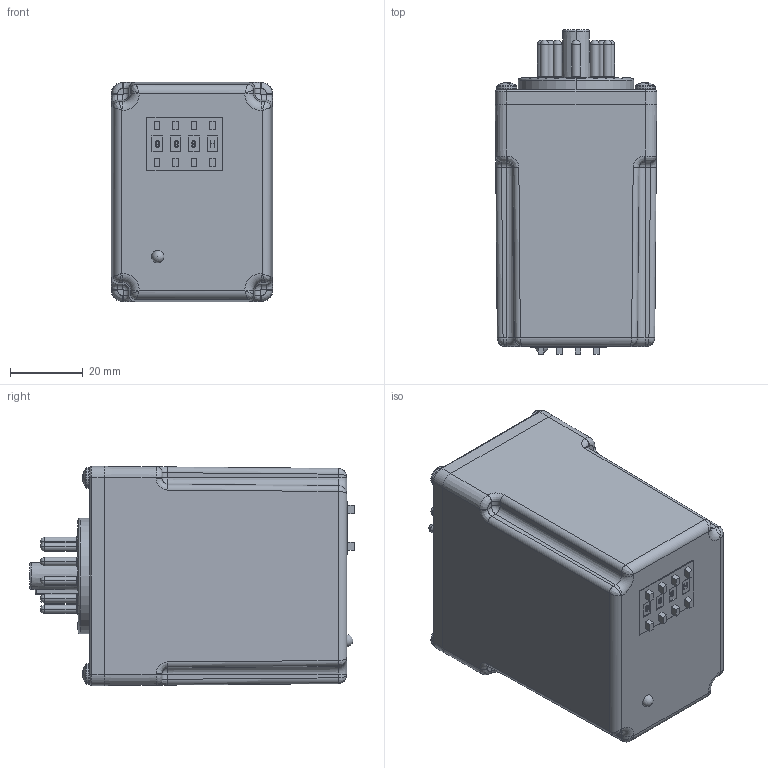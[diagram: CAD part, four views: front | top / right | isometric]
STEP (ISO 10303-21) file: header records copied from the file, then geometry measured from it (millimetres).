
FILE_DESCRIPTION(('FreeCAD Model'),'2;1');
FILE_NAME('Open CASCADE Shape Model','2023-06-06T13:27:00',(''),(''), 'Open CASCADE STEP processor 7.6','FreeCAD','Unknown');
FILE_SCHEMA(('AUTOMOTIVE_DESIGN { 1 0 10303 214 1 1 1 1 }'));
Products named in the file (1): Compound001
Bounding box: 44.45 x 89.41 x 60.33 mm (x, y, z)
Surface area: 45043.5 mm2 (no closed solid volume)
Topology: 0 solids, 27 shells, 2048 faces, 5065 edges, 3146 vertices
Faces by surface type: plane 670, cylinder 528, bspline 365, torus 282, revolution 140, cone 60, sphere 3
Entity records: 197680 total; most frequent: CARTESIAN_POINT 101898, DIRECTION 15829, ORIENTED_EDGE 10092, PCURVE 10092, DEFINITIONAL_REPRESENTATION 10092, LINE 9480, VECTOR 9480, EDGE_CURVE 5054
